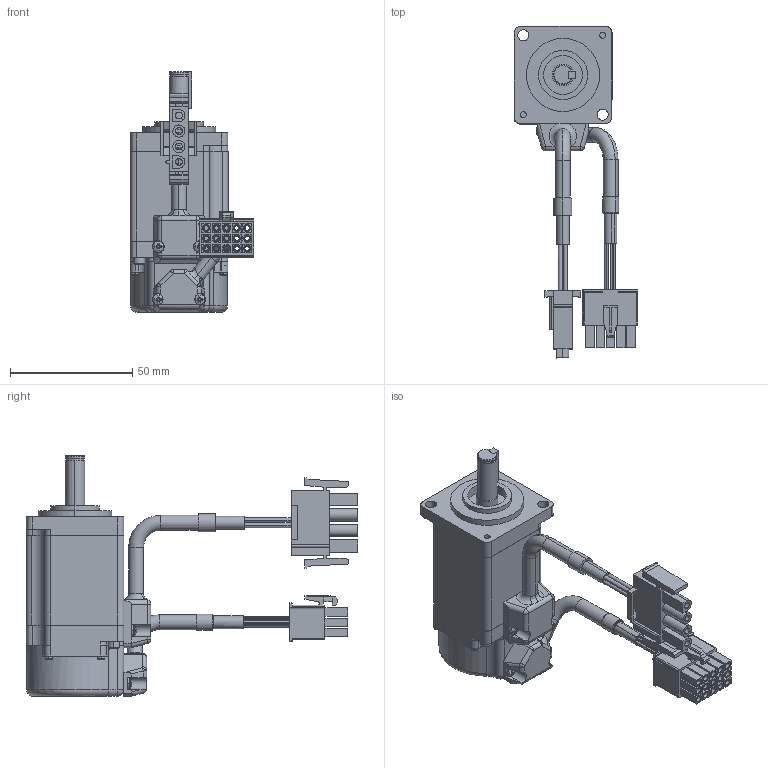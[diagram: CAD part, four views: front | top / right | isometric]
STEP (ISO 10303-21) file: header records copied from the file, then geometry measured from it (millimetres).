
FILE_DESCRIPTION((''),'2;1');
FILE_NAME('TLA130PHJ32AA_ASM_ASM','2005-12-19T',('Sjohnson'),(''),'PRO/ENGINEER BY PARAMETRIC TECHNOLOGY CORPORATION, 2004320','PRO/ENGINEER BY PARAMETRIC TECHNOLOGY CORPORATION, 2004320','');
FILE_SCHEMA(('CONFIG_CONTROL_DESIGN'));
Length unit declared in the file: inch
Products named in the file (10): TLA130PBJ32AA_1; TL_FDBCK_CONN_40W_1; TL_POWER_CONN_40W_1; 19-10152-004_1; CH4X025_1; TL_REAR_COVER_40WPHMP4_1; 172171-1_1; 350779-1_1; ASM0001_ASM; TLA130PHJ32AA_ASM_ASM
Assembly tree (16 placements, depth 3):
  TLA130PHJ32AA_ASM_ASM
    ASM0001_ASM
      TLA130PBJ32AA_1
      TL_FDBCK_CONN_40W_1
      TL_POWER_CONN_40W_1
      19-10152-004_1  x4
      CH4X025_1  x2
      TL_REAR_COVER_40WPHMP4_1  x4
      172171-1_1
      350779-1_1
Bounding box: 50.75 x 136.02 x 98.51 mm (x, y, z)
Volume: 121847.4 mm3; surface area: 35201.7 mm2
Topology: 14 solids, 16 shells, 1368 faces, 3641 edges, 2398 vertices
Faces by surface type: plane 903, cylinder 307, bspline 60, cone 55, torus 29, sphere 10, extrusion 4
Entity records: 38518 total; most frequent: CARTESIAN_POINT 8181, ORIENTED_EDGE 6313, DIRECTION 6124, EDGE_CURVE 3162, VECTOR 2296, LINE 2292, VERTEX_POINT 2098, AXIS2_PLACEMENT_3D 1914
